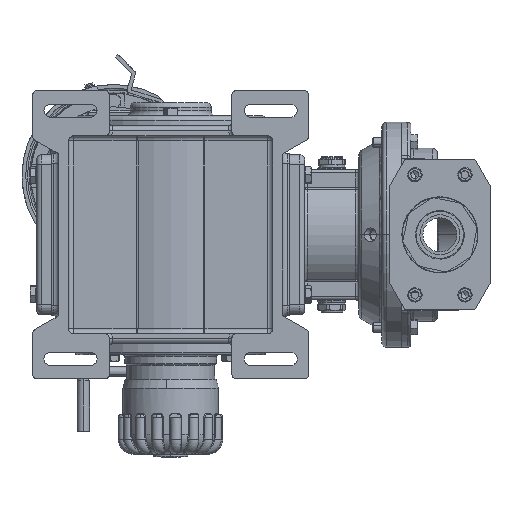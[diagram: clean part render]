
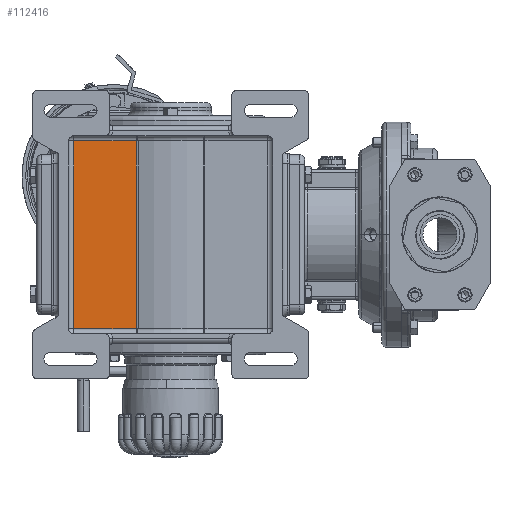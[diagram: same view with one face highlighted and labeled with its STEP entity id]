
A CAD part, front view. The second image highlights one B-rep face of the part: STEP entity #112416.
In plain terms, the highlighted planar face has unit normal (0, -1, 0).
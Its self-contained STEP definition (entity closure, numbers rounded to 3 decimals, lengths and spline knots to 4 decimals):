
#2871 = DIRECTION ( 'NONE',  ( 0., 0., -1. ) ) ;
#2948 = CARTESIAN_POINT ( 'NONE',  ( -7.7311, -4.5012, -1.4894 ) ) ;
#15059 = DIRECTION ( 'NONE',  ( -1., 0., 0. ) ) ;
#20569 = DIRECTION ( 'NONE',  ( 1., 0., 0. ) ) ;
#22438 = FACE_OUTER_BOUND ( 'NONE', #42573, .T. ) ;
#24352 = DIRECTION ( 'NONE',  ( 0., -1., 0. ) ) ;
#26167 = LINE ( 'NONE', #35287, #37971 ) ;
#31005 = CARTESIAN_POINT ( 'NONE',  ( -5.2275, -4.5012, -1.4894 ) ) ;
#33193 = VECTOR ( 'NONE', #35272, 39.3701 ) ;
#35272 = DIRECTION ( 'NONE',  ( 0., 0., 1. ) ) ;
#35287 = CARTESIAN_POINT ( 'NONE',  ( -7.928, -4.5012, 5.8964 ) ) ;
#36910 = ORIENTED_EDGE ( 'NONE', *, *, #48411, .T. ) ;
#37822 = EDGE_CURVE ( 'NONE', #118916, #127337, #126594, .T. ) ;
#37971 = VECTOR ( 'NONE', #15059, 39.3701 ) ;
#42573 = EDGE_LOOP ( 'NONE', ( #55028, #47501, #36910, #107556 ) ) ;
#46786 = EDGE_CURVE ( 'NONE', #127337, #80858, #26167, .T. ) ;
#47501 = ORIENTED_EDGE ( 'NONE', *, *, #109254, .T. ) ;
#48411 = EDGE_CURVE ( 'NONE', #94610, #118916, #62312, .T. ) ;
#49035 = CARTESIAN_POINT ( 'NONE',  ( -5.2624, -4.5012, 5.8964 ) ) ;
#55028 = ORIENTED_EDGE ( 'NONE', *, *, #46786, .T. ) ;
#55455 = DIRECTION ( 'NONE',  ( 0., 0., -1. ) ) ;
#62312 = LINE ( 'NONE', #31005, #98420 ) ;
#80858 = VERTEX_POINT ( 'NONE', #105350 ) ;
#93544 = PLANE ( 'NONE',  #128611 ) ;
#94610 = VERTEX_POINT ( 'NONE', #2948 ) ;
#94682 = CARTESIAN_POINT ( 'NONE',  ( -5.2624, -4.5012, 6.0933 ) ) ;
#98420 = VECTOR ( 'NONE', #20569, 39.3701 ) ;
#104363 = CARTESIAN_POINT ( 'NONE',  ( -7.7311, -4.5012, -1.6863 ) ) ;
#105350 = CARTESIAN_POINT ( 'NONE',  ( -7.7311, -4.5012, 5.8964 ) ) ;
#107556 = ORIENTED_EDGE ( 'NONE', *, *, #37822, .T. ) ;
#109254 = EDGE_CURVE ( 'NONE', #80858, #94610, #114140, .T. ) ;
#112416 = ADVANCED_FACE ( 'NONE', ( #22438 ), #93544, .T. ) ;
#113539 = VECTOR ( 'NONE', #55455, 39.3701 ) ;
#113747 = CARTESIAN_POINT ( 'NONE',  ( -8.3217, -4.5012, -2.08 ) ) ;
#114140 = LINE ( 'NONE', #104363, #113539 ) ;
#115238 = CARTESIAN_POINT ( 'NONE',  ( -5.2624, -4.5012, -1.4894 ) ) ;
#118916 = VERTEX_POINT ( 'NONE', #115238 ) ;
#126594 = LINE ( 'NONE', #94682, #33193 ) ;
#127337 = VERTEX_POINT ( 'NONE', #49035 ) ;
#128611 = AXIS2_PLACEMENT_3D ( 'NONE', #113747, #24352, #2871 ) ;
